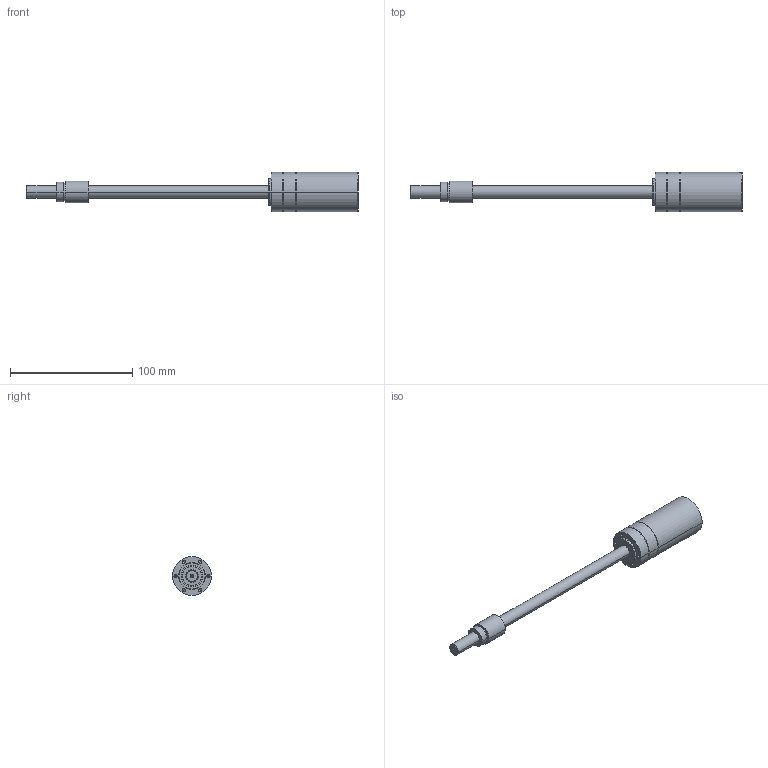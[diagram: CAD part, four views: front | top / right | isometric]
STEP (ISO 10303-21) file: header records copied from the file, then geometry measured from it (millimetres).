
FILE_DESCRIPTION((''),'2;1');
FILE_NAME('2633831','2016-10-05T',('mmagvisi'),(''),'CREO PARAMETRIC BY PTC INC, 2016050','CREO PARAMETRIC BY PTC INC, 2016050','');
FILE_SCHEMA(('CONFIG_CONTROL_DESIGN'));
Length unit declared in the file: millimetre
Products named in the file (1): 2633831
Bounding box: 271.9 x 32 x 32 mm (x, y, z)
Volume: 72681.9 mm3; surface area: 17341 mm2
Topology: 1 solids, 1 shells, 97 faces, 210 edges, 117 vertices
Faces by surface type: cone 42, cylinder 40, plane 13, torus 2
Entity records: 2706 total; most frequent: DIRECTION 494, CARTESIAN_POINT 486, ORIENTED_EDGE 392, AXIS2_PLACEMENT_3D 205, EDGE_CURVE 196, VERTEX_POINT 117, EDGE_LOOP 115, CIRCLE 108
